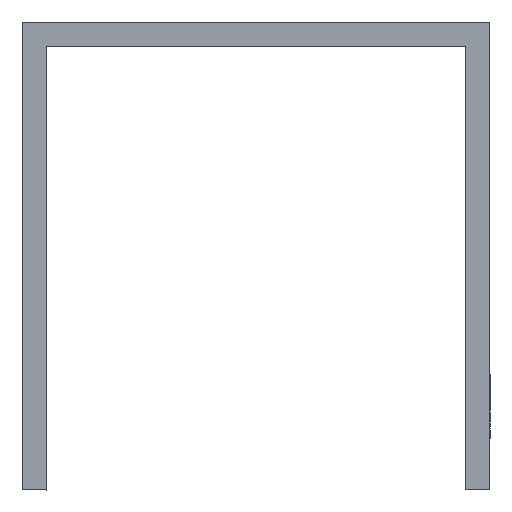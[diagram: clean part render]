
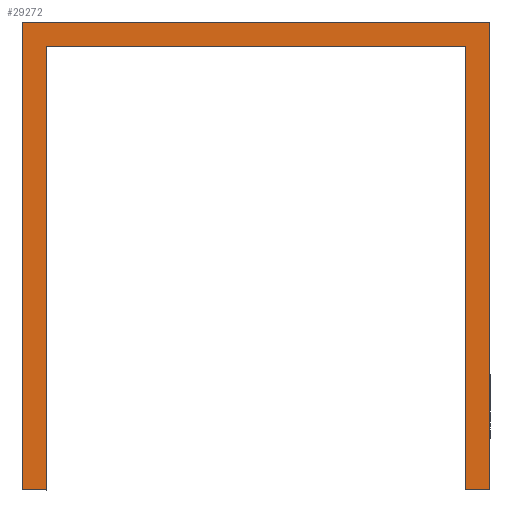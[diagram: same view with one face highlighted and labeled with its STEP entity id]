
A CAD part, front view. The second image highlights one B-rep face of the part: STEP entity #29272.
In plain terms, the highlighted planar face has unit normal (0, -1, 0).
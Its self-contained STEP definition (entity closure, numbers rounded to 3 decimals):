
#34 = LINE ( 'NONE', #18682, #54020 ) ;
#3148 = VERTEX_POINT ( 'NONE', #55382 ) ;
#3153 = VERTEX_POINT ( 'NONE', #35045 ) ;
#6665 = VECTOR ( 'NONE', #44146, 1000. ) ;
#7092 = EDGE_CURVE ( 'NONE', #58840, #24075, #61413, .T. ) ;
#7429 = VERTEX_POINT ( 'NONE', #35161 ) ;
#7578 = DIRECTION ( 'NONE',  ( -1., 0., 0. ) ) ;
#8261 = FACE_OUTER_BOUND ( 'NONE', #56080, .T. ) ;
#8677 = CARTESIAN_POINT ( 'NONE',  ( -21.5, 0., 0. ) ) ;
#9163 = ORIENTED_EDGE ( 'NONE', *, *, #57517, .F. ) ;
#10010 = EDGE_CURVE ( 'NONE', #3148, #12672, #30910, .T. ) ;
#10985 = PLANE ( 'NONE',  #49752 ) ;
#11413 = VERTEX_POINT ( 'NONE', #34806 ) ;
#12672 = VERTEX_POINT ( 'NONE', #67735 ) ;
#13060 = CARTESIAN_POINT ( 'NONE',  ( -21.5, 0., 0. ) ) ;
#15767 = ORIENTED_EDGE ( 'NONE', *, *, #64583, .F. ) ;
#16875 = CARTESIAN_POINT ( 'NONE',  ( 24., 0., 2.5 ) ) ;
#18682 = CARTESIAN_POINT ( 'NONE',  ( -24., 0., -45.5 ) ) ;
#20018 = CARTESIAN_POINT ( 'NONE',  ( 24., 0., -45.5 ) ) ;
#20209 = ORIENTED_EDGE ( 'NONE', *, *, #34882, .F. ) ;
#20592 = LINE ( 'NONE', #13060, #6665 ) ;
#20683 = DIRECTION ( 'NONE',  ( 0., 0., -1. ) ) ;
#22608 = EDGE_CURVE ( 'NONE', #7429, #3153, #56534, .T. ) ;
#22809 = EDGE_CURVE ( 'NONE', #3153, #3148, #34, .T. ) ;
#24075 = VERTEX_POINT ( 'NONE', #27136 ) ;
#26561 = DIRECTION ( 'NONE',  ( 0., 0., 1. ) ) ;
#27136 = CARTESIAN_POINT ( 'NONE',  ( 21.5, 0., 0. ) ) ;
#27413 = DIRECTION ( 'NONE',  ( 1., 0., 0. ) ) ;
#27981 = VECTOR ( 'NONE', #26561, 1000. ) ;
#28635 = ORIENTED_EDGE ( 'NONE', *, *, #10010, .F. ) ;
#29272 = ADVANCED_FACE ( 'NONE', ( #8261 ), #10985, .T. ) ;
#30910 = LINE ( 'NONE', #16875, #33309 ) ;
#30932 = EDGE_CURVE ( 'NONE', #11413, #7429, #48057, .T. ) ;
#31092 = ORIENTED_EDGE ( 'NONE', *, *, #7092, .F. ) ;
#31355 = CARTESIAN_POINT ( 'NONE',  ( 21.5, 0., -45.5 ) ) ;
#32236 = VERTEX_POINT ( 'NONE', #49291 ) ;
#32545 = ORIENTED_EDGE ( 'NONE', *, *, #22608, .F. ) ;
#32589 = ORIENTED_EDGE ( 'NONE', *, *, #30932, .F. ) ;
#33309 = VECTOR ( 'NONE', #27413, 1000. ) ;
#34806 = CARTESIAN_POINT ( 'NONE',  ( -21.5, 0., 0. ) ) ;
#34882 = EDGE_CURVE ( 'NONE', #24075, #11413, #20592, .T. ) ;
#35045 = CARTESIAN_POINT ( 'NONE',  ( -24., 0., -45.5 ) ) ;
#35161 = CARTESIAN_POINT ( 'NONE',  ( -21.5, 0., -45.5 ) ) ;
#36025 = VECTOR ( 'NONE', #20683, 1000. ) ;
#38158 = DIRECTION ( 'NONE',  ( -1., 0., 0. ) ) ;
#38420 = LINE ( 'NONE', #20018, #36025 ) ;
#39929 = DIRECTION ( 'NONE',  ( 0., 0., 1. ) ) ;
#42047 = CARTESIAN_POINT ( 'NONE',  ( 21.5, 0., 0. ) ) ;
#44146 = DIRECTION ( 'NONE',  ( -1., 0., 0. ) ) ;
#47349 = DIRECTION ( 'NONE',  ( 0., -1., 0. ) ) ;
#47559 = DIRECTION ( 'NONE',  ( 0., 0., -1. ) ) ;
#48057 = LINE ( 'NONE', #8677, #61075 ) ;
#49291 = CARTESIAN_POINT ( 'NONE',  ( 24., 0., -45.5 ) ) ;
#49752 = AXIS2_PLACEMENT_3D ( 'NONE', #62593, #47349, #47559 ) ;
#50892 = LINE ( 'NONE', #54438, #57466 ) ;
#51911 = ORIENTED_EDGE ( 'NONE', *, *, #22809, .F. ) ;
#54020 = VECTOR ( 'NONE', #39929, 1000. ) ;
#54133 = CARTESIAN_POINT ( 'NONE',  ( -21.5, 0., -45.5 ) ) ;
#54438 = CARTESIAN_POINT ( 'NONE',  ( 21.5, 0., -45.5 ) ) ;
#55382 = CARTESIAN_POINT ( 'NONE',  ( -24., 0., 2.5 ) ) ;
#55760 = DIRECTION ( 'NONE',  ( 0., 0., -1. ) ) ;
#56080 = EDGE_LOOP ( 'NONE', ( #31092, #9163, #15767, #28635, #51911, #32545, #32589, #20209 ) ) ;
#56534 = LINE ( 'NONE', #54133, #65355 ) ;
#57466 = VECTOR ( 'NONE', #7578, 1000. ) ;
#57517 = EDGE_CURVE ( 'NONE', #32236, #58840, #50892, .T. ) ;
#58840 = VERTEX_POINT ( 'NONE', #31355 ) ;
#61075 = VECTOR ( 'NONE', #55760, 1000. ) ;
#61413 = LINE ( 'NONE', #42047, #27981 ) ;
#62593 = CARTESIAN_POINT ( 'NONE',  ( 0., 0., 0. ) ) ;
#64583 = EDGE_CURVE ( 'NONE', #12672, #32236, #38420, .T. ) ;
#65355 = VECTOR ( 'NONE', #38158, 1000. ) ;
#67735 = CARTESIAN_POINT ( 'NONE',  ( 24., 0., 2.5 ) ) ;
